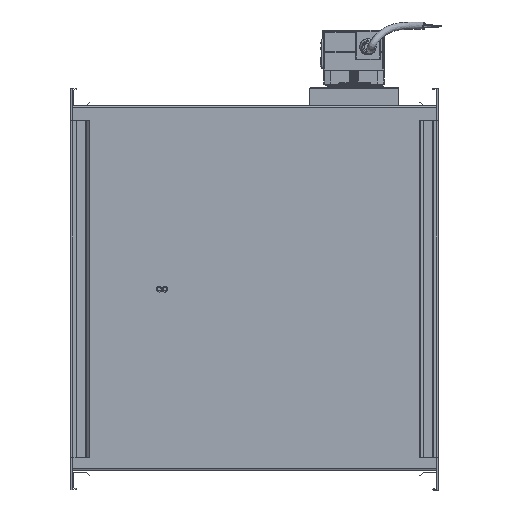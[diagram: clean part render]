
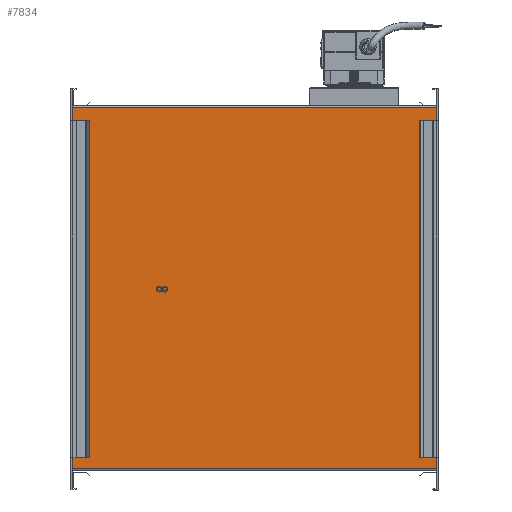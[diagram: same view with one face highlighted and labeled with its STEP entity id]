
A CAD part, front view. The second image highlights one B-rep face of the part: STEP entity #7834.
In plain terms, the highlighted planar face has unit normal (0, -1, 0).
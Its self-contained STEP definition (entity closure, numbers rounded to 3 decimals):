
#658 = ORIENTED_EDGE ( 'NONE', *, *, #48828, .F. ) ;
#2084 = CARTESIAN_POINT ( 'NONE',  ( -244.423, -85.848, 902. ) ) ;
#7834 = ADVANCED_FACE ( 'NONE', ( #46783 ), #68419, .T. ) ;
#10064 = CARTESIAN_POINT ( 'NONE',  ( -244.423, -85.848, 902. ) ) ;
#11546 = CARTESIAN_POINT ( 'NONE',  ( -244.423, -85.848, 902. ) ) ;
#12829 = EDGE_LOOP ( 'NONE', ( #658, #84924, #80924, #26479 ) ) ;
#13045 = EDGE_CURVE ( 'NONE', #17262, #44622, #89985, .T. ) ;
#13983 = CARTESIAN_POINT ( 'NONE',  ( 155.577, -85.848, 1298. ) ) ;
#17262 = VERTEX_POINT ( 'NONE', #75479 ) ;
#18013 = LINE ( 'NONE', #2084, #69547 ) ;
#18569 = DIRECTION ( 'NONE',  ( 0., 0., -1. ) ) ;
#26479 = ORIENTED_EDGE ( 'NONE', *, *, #27514, .T. ) ;
#27514 = EDGE_CURVE ( 'NONE', #44622, #47003, #18013, .T. ) ;
#32648 = DIRECTION ( 'NONE',  ( 0., 0., -1. ) ) ;
#33004 = CARTESIAN_POINT ( 'NONE',  ( 155.577, -85.848, 902. ) ) ;
#40610 = DIRECTION ( 'NONE',  ( 0., -1., 0. ) ) ;
#44622 = VERTEX_POINT ( 'NONE', #10064 ) ;
#46783 = FACE_OUTER_BOUND ( 'NONE', #12829, .T. ) ;
#47003 = VERTEX_POINT ( 'NONE', #89179 ) ;
#48828 = EDGE_CURVE ( 'NONE', #54067, #47003, #62660, .T. ) ;
#54067 = VERTEX_POINT ( 'NONE', #13983 ) ;
#54332 = CARTESIAN_POINT ( 'NONE',  ( -244.423, -85.848, 902. ) ) ;
#56382 = DIRECTION ( 'NONE',  ( 1., 0., 0. ) ) ;
#57394 = VECTOR ( 'NONE', #56382, 1000. ) ;
#58971 = DIRECTION ( 'NONE',  ( 1., 0., 0. ) ) ;
#60768 = VECTOR ( 'NONE', #18569, 1000. ) ;
#62660 = LINE ( 'NONE', #33004, #66028 ) ;
#63864 = LINE ( 'NONE', #77461, #57394 ) ;
#66028 = VECTOR ( 'NONE', #91258, 1000. ) ;
#68419 = PLANE ( 'NONE',  #81261 ) ;
#69547 = VECTOR ( 'NONE', #58971, 1000. ) ;
#73294 = EDGE_CURVE ( 'NONE', #17262, #54067, #63864, .T. ) ;
#75479 = CARTESIAN_POINT ( 'NONE',  ( -244.423, -85.848, 1298. ) ) ;
#77461 = CARTESIAN_POINT ( 'NONE',  ( -244.423, -85.848, 1298. ) ) ;
#80924 = ORIENTED_EDGE ( 'NONE', *, *, #13045, .T. ) ;
#81261 = AXIS2_PLACEMENT_3D ( 'NONE', #11546, #40610, #32648 ) ;
#84924 = ORIENTED_EDGE ( 'NONE', *, *, #73294, .F. ) ;
#89179 = CARTESIAN_POINT ( 'NONE',  ( 155.577, -85.848, 902. ) ) ;
#89985 = LINE ( 'NONE', #54332, #60768 ) ;
#91258 = DIRECTION ( 'NONE',  ( 0., 0., -1. ) ) ;
